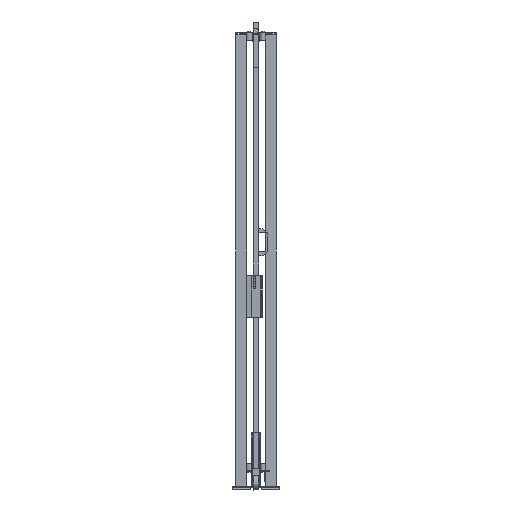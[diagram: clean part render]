
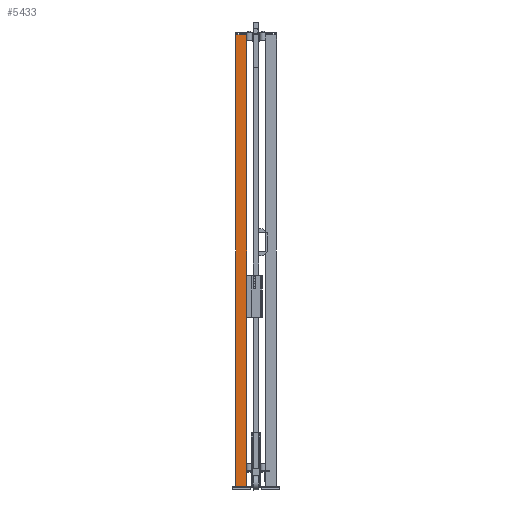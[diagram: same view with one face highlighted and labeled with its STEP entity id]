
A CAD part, left-side view. The second image highlights one B-rep face of the part: STEP entity #5433.
In plain terms, the highlighted planar face has unit normal (-1, 0, 0) as drawn and (0, 1, 0) by its records, which use the part's own axes.
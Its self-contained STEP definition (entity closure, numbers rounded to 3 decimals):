
#524=FACE_OUTER_BOUND('',#937,.T.);
#937=EDGE_LOOP('',(#3328,#3329,#3330,#3331));
#1393=VERTEX_POINT('',#11710);
#1394=VERTEX_POINT('',#11712);
#1396=VERTEX_POINT('',#11718);
#1399=VERTEX_POINT('',#11723);
#2159=EDGE_CURVE('',#1393,#1394,#6469,.T.);
#2165=EDGE_CURVE('',#1399,#1396,#6475,.T.);
#2168=EDGE_CURVE('',#1394,#1399,#6478,.T.);
#2169=EDGE_CURVE('',#1393,#1396,#6479,.T.);
#3328=ORIENTED_EDGE('',*,*,#2169,.T.);
#3329=ORIENTED_EDGE('',*,*,#2165,.F.);
#3330=ORIENTED_EDGE('',*,*,#2168,.F.);
#3331=ORIENTED_EDGE('',*,*,#2159,.F.);
#5072=PLANE('',#8337);
#5433=ADVANCED_FACE('',(#524),#5072,.F.);
#6469=LINE('',#11713,#7489);
#6475=LINE('',#11725,#7495);
#6478=LINE('',#11730,#7498);
#6479=LINE('',#11732,#7499);
#7489=VECTOR('',#9227,1.);
#7495=VECTOR('',#9235,1.);
#7498=VECTOR('',#9242,1.);
#7499=VECTOR('',#9245,1.);
#8337=AXIS2_PLACEMENT_3D('',#11731,#9243,#9244);
#9227=DIRECTION('',(-1.,0.,0.));
#9235=DIRECTION('',(1.,0.,0.));
#9242=DIRECTION('',(0.,0.,-1.));
#9243=DIRECTION('center_axis',(0.,-1.,0.));
#9244=DIRECTION('ref_axis',(0.,0.,-1.));
#9245=DIRECTION('',(0.,0.,-1.));
#11710=CARTESIAN_POINT('',(30.,30.,2520.));
#11712=CARTESIAN_POINT('',(-30.,30.,2520.));
#11713=CARTESIAN_POINT('',(0.,30.,2520.));
#11718=CARTESIAN_POINT('',(30.,30.,20.));
#11723=CARTESIAN_POINT('',(-30.,30.,20.));
#11725=CARTESIAN_POINT('',(0.,30.,20.));
#11730=CARTESIAN_POINT('',(-30.,30.,1270.));
#11731=CARTESIAN_POINT('Origin',(0.,30.,
1270.));
#11732=CARTESIAN_POINT('',(30.,30.,1270.));
